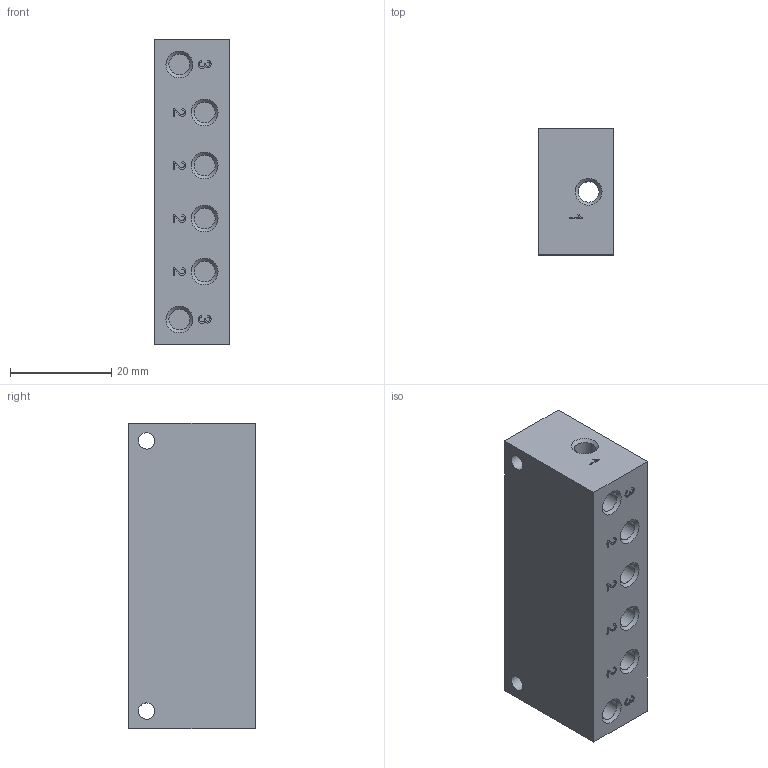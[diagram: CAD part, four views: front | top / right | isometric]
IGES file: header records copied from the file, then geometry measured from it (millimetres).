
Global section: file name: 395_04; native system: Autodesk Inventor 2014; preprocessor: unknown; author: R.Rivoltella; organization: Pneumax S.p.A.; date: 20161005.082401; units: millimetre
Bounding box: 15 x 25 x 60.5 mm (x, y, z)
Volume: 20953.5 mm3; surface area: 7227.5 mm2
Topology: 1 solids, 1 shells, 165 faces, 467 edges, 320 vertices
Faces by surface type: bspline 165
